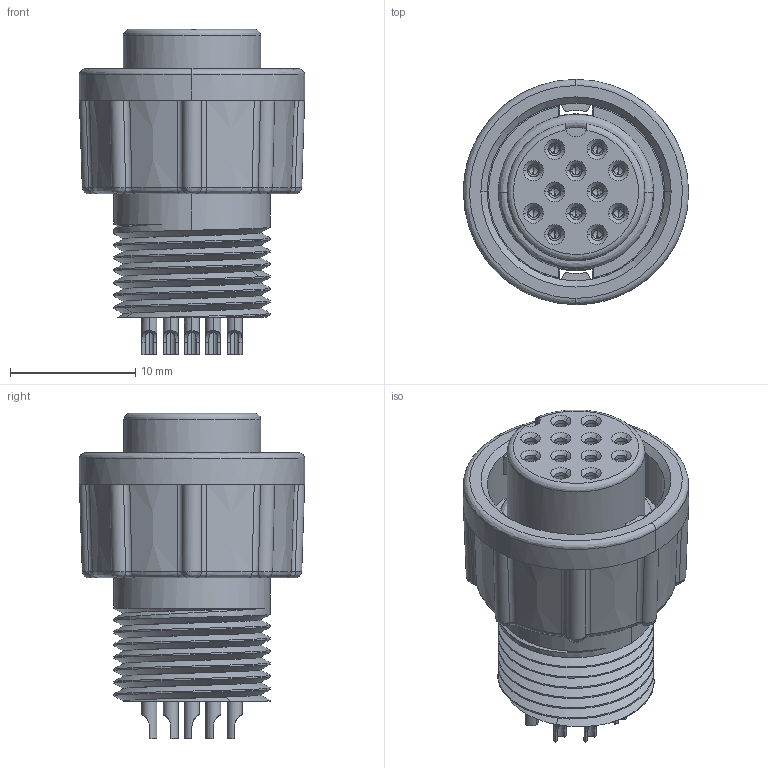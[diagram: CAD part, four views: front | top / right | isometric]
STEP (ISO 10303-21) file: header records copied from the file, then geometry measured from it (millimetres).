
FILE_DESCRIPTION (( 'STEP AP203' ), '1' );
FILE_NAME ('868-012-203R001.STEP', '2024-06-13T20:40:03', ( '' ), ( '' ), 'SwSTEP 2.0', 'SolidWorks 2020', '' );
FILE_SCHEMA (( 'CONFIG_CONTROL_DESIGN' ));
Length unit declared in the file: millimetre
Products named in the file (1): 868-012-203R001
Bounding box: 18 x 18 x 26 mm (x, y, z)
Volume: 3026.2 mm3; surface area: 5001.9 mm2
Topology: 1 solids, 1 shells, 659 faces, 1706 edges, 1051 vertices
Faces by surface type: cylinder 215, cone 203, plane 193, bspline 48
Entity records: 31900 total; most frequent: CARTESIAN_POINT 17185, ORIENTED_EDGE 3316, DIRECTION 2687, EDGE_CURVE 1658, AXIS2_PLACEMENT_3D 1088, VERTEX_POINT 1051, EDGE_LOOP 713, ADVANCED_FACE 659
